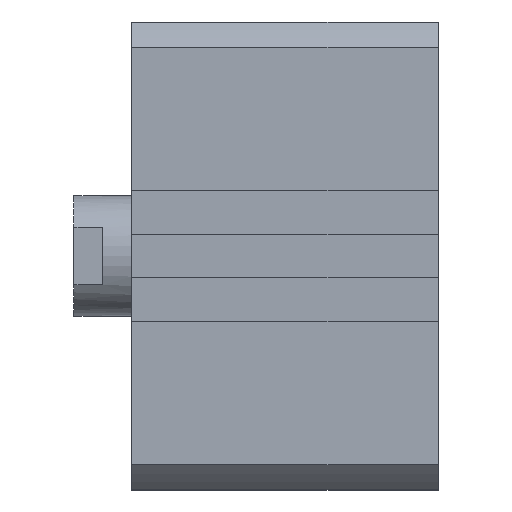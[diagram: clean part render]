
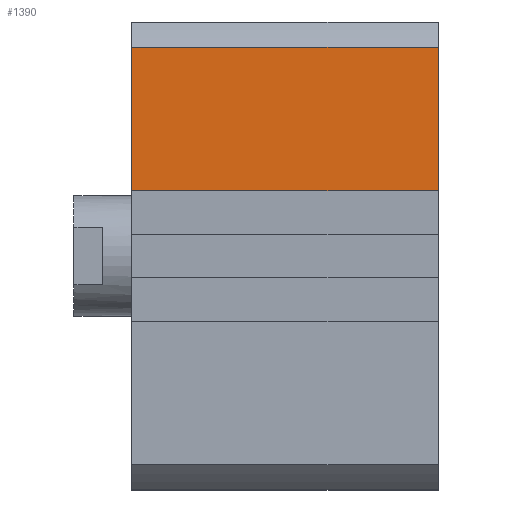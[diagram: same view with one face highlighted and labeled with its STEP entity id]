
A CAD part, left-side view. The second image highlights one B-rep face of the part: STEP entity #1390.
In plain terms, the highlighted planar face has unit normal (-1, 0, 0).
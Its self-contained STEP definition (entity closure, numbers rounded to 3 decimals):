
#33 = EDGE_CURVE ( 'NONE', #1097, #1657, #918, .T. ) ;
#220 = CARTESIAN_POINT ( 'NONE',  ( -48.5, 0., 0. ) ) ;
#369 = EDGE_CURVE ( 'NONE', #3208, #1131, #2978, .T. ) ;
#397 = CARTESIAN_POINT ( 'NONE',  ( -48.5, -63.5, 43.275 ) ) ;
#430 = ORIENTED_EDGE ( 'NONE', *, *, #33, .T. ) ;
#468 = DIRECTION ( 'NONE',  ( -1., 0., 0. ) ) ;
#499 = CARTESIAN_POINT ( 'NONE',  ( -48.5, -63.5, 0. ) ) ;
#918 = LINE ( 'NONE', #397, #2138 ) ;
#1097 = VERTEX_POINT ( 'NONE', #2423 ) ;
#1131 = VERTEX_POINT ( 'NONE', #2658 ) ;
#1187 = LINE ( 'NONE', #1974, #1554 ) ;
#1215 = CARTESIAN_POINT ( 'NONE',  ( -48.5, -63.5, 13.5 ) ) ;
#1227 = DIRECTION ( 'NONE',  ( 0., 1., 0. ) ) ;
#1293 = DIRECTION ( 'NONE',  ( 0., 0., 1. ) ) ;
#1339 = EDGE_LOOP ( 'NONE', ( #2329, #2807, #2961, #430 ) ) ;
#1374 = AXIS2_PLACEMENT_3D ( 'NONE', #499, #468, #1293 ) ;
#1377 = CARTESIAN_POINT ( 'NONE',  ( -48.5, 0., 43.275 ) ) ;
#1390 = ADVANCED_FACE ( 'NONE', ( #3085 ), #3095, .T. ) ;
#1413 = VECTOR ( 'NONE', #2841, 1000. ) ;
#1471 = DIRECTION ( 'NONE',  ( 0., 0., 1. ) ) ;
#1554 = VECTOR ( 'NONE', #1471, 1000. ) ;
#1657 = VERTEX_POINT ( 'NONE', #1377 ) ;
#1899 = DIRECTION ( 'NONE',  ( 0., 1., 0. ) ) ;
#1974 = CARTESIAN_POINT ( 'NONE',  ( -48.5, -63.5, 0. ) ) ;
#2138 = VECTOR ( 'NONE', #1227, 1000. ) ;
#2329 = ORIENTED_EDGE ( 'NONE', *, *, #2840, .F. ) ;
#2391 = CARTESIAN_POINT ( 'NONE',  ( -48.5, -63.5, 13.5 ) ) ;
#2423 = CARTESIAN_POINT ( 'NONE',  ( -48.5, -63.5, 43.275 ) ) ;
#2658 = CARTESIAN_POINT ( 'NONE',  ( -48.5, 0., 13.5 ) ) ;
#2715 = EDGE_CURVE ( 'NONE', #3208, #1097, #1187, .T. ) ;
#2807 = ORIENTED_EDGE ( 'NONE', *, *, #369, .F. ) ;
#2840 = EDGE_CURVE ( 'NONE', #1131, #1657, #3253, .T. ) ;
#2841 = DIRECTION ( 'NONE',  ( 0., 0., 1. ) ) ;
#2961 = ORIENTED_EDGE ( 'NONE', *, *, #2715, .T. ) ;
#2978 = LINE ( 'NONE', #2391, #3178 ) ;
#3085 = FACE_OUTER_BOUND ( 'NONE', #1339, .T. ) ;
#3095 = PLANE ( 'NONE',  #1374 ) ;
#3178 = VECTOR ( 'NONE', #1899, 1000. ) ;
#3208 = VERTEX_POINT ( 'NONE', #1215 ) ;
#3253 = LINE ( 'NONE', #220, #1413 ) ;
